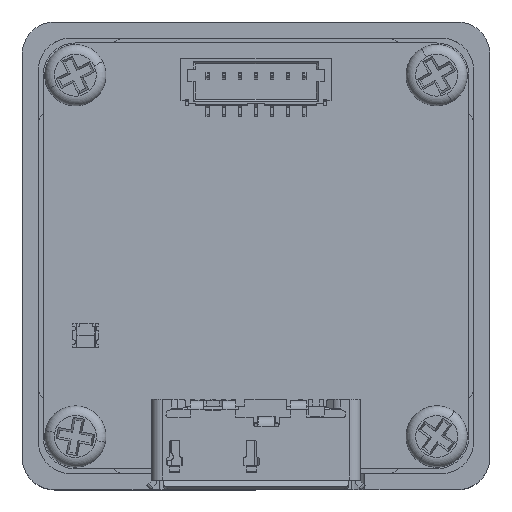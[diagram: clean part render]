
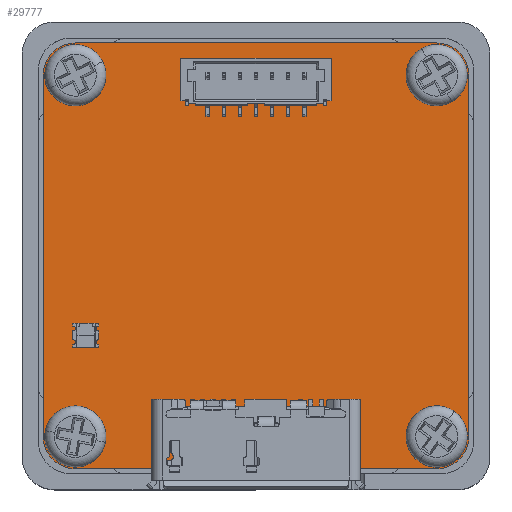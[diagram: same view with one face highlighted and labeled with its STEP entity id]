
A CAD part, top view. The second image highlights one B-rep face of the part: STEP entity #29777.
In plain terms, the highlighted planar face has unit normal (0, 0, 1).
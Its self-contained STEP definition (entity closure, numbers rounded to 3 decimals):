
#1104 = CARTESIAN_POINT ( 'NONE',  ( 2., 2., 1.201 ) ) ;
#1317 = FACE_BOUND ( 'NONE', #35950, .T. ) ;
#1433 = AXIS2_PLACEMENT_3D ( 'NONE', #22054, #46368, #70597 ) ;
#2433 = EDGE_CURVE ( 'NONE', #19336, #33959, #14262, .T. ) ;
#2584 = DIRECTION ( 'NONE',  ( -1., 0., 0. ) ) ;
#3640 = CARTESIAN_POINT ( 'NONE',  ( 24.4, 2., 1.201 ) ) ;
#4267 = VERTEX_POINT ( 'NONE', #25402 ) ;
#5616 = CARTESIAN_POINT ( 'NONE',  ( 25.5, 24.4, 1.201 ) ) ;
#6164 = ORIENTED_EDGE ( 'NONE', *, *, #60246, .F. ) ;
#7237 = DIRECTION ( 'NONE',  ( 0., 0., 1. ) ) ;
#7773 = CARTESIAN_POINT ( 'NONE',  ( 0.9, 24.4, 1.201 ) ) ;
#8455 = AXIS2_PLACEMENT_3D ( 'NONE', #3640, #53024, #65787 ) ;
#8881 = DIRECTION ( 'NONE',  ( 1., 0., 0. ) ) ;
#9021 = EDGE_CURVE ( 'NONE', #30019, #4267, #29493, .T. ) ;
#9370 = VECTOR ( 'NONE', #68484, 1000. ) ;
#9592 = CARTESIAN_POINT ( 'NONE',  ( 0.9, 2., 1.201 ) ) ;
#10093 = CARTESIAN_POINT ( 'NONE',  ( 3.1, 2., 1.201 ) ) ;
#10290 = VERTEX_POINT ( 'NONE', #7773 ) ;
#11524 = AXIS2_PLACEMENT_3D ( 'NONE', #48764, #7237, #19270 ) ;
#11554 = VERTEX_POINT ( 'NONE', #58157 ) ;
#11955 = CARTESIAN_POINT ( 'NONE',  ( 24.4, 24.4, 1.201 ) ) ;
#12565 = AXIS2_PLACEMENT_3D ( 'NONE', #46475, #64797, #31702 ) ;
#12816 = CARTESIAN_POINT ( 'NONE',  ( 23.3, 2., 1.201 ) ) ;
#13174 = DIRECTION ( 'NONE',  ( -1., 0., 0. ) ) ;
#13563 = DIRECTION ( 'NONE',  ( 0., 0., 1. ) ) ;
#14012 = ORIENTED_EDGE ( 'NONE', *, *, #71568, .F. ) ;
#14262 = CIRCLE ( 'NONE', #48579, 1.1 ) ;
#15139 = VECTOR ( 'NONE', #8881, 1000. ) ;
#15612 = CARTESIAN_POINT ( 'NONE',  ( 0., 2., 1.201 ) ) ;
#16088 = DIRECTION ( 'NONE',  ( 1., 0., 0. ) ) ;
#16107 = CIRCLE ( 'NONE', #8455, 2. ) ;
#16392 = CARTESIAN_POINT ( 'NONE',  ( 0., 24.4, 1.201 ) ) ;
#16412 = EDGE_LOOP ( 'NONE', ( #74653, #48766 ) ) ;
#16416 = DIRECTION ( 'NONE',  ( 0., 0., 1. ) ) ;
#16436 = CIRCLE ( 'NONE', #60955, 1.1 ) ;
#17610 = VERTEX_POINT ( 'NONE', #27703 ) ;
#18200 = CARTESIAN_POINT ( 'NONE',  ( 24.4, 0., 1.201 ) ) ;
#18439 = AXIS2_PLACEMENT_3D ( 'NONE', #51636, #37758, #43716 ) ;
#18669 = AXIS2_PLACEMENT_3D ( 'NONE', #46734, #58287, #16088 ) ;
#18701 = EDGE_CURVE ( 'NONE', #23930, #11554, #61919, .T. ) ;
#18862 = FACE_OUTER_BOUND ( 'NONE', #67828, .T. ) ;
#19270 = DIRECTION ( 'NONE',  ( 1., 0., 0. ) ) ;
#19336 = VERTEX_POINT ( 'NONE', #10093 ) ;
#19453 = DIRECTION ( 'NONE',  ( 0., 0., 1. ) ) ;
#19508 = DIRECTION ( 'NONE',  ( 0., 0., 1. ) ) ;
#20089 = LINE ( 'NONE', #45565, #15139 ) ;
#20492 = CARTESIAN_POINT ( 'NONE',  ( 2., 24.4, 1.201 ) ) ;
#21062 = LINE ( 'NONE', #37849, #9370 ) ;
#21764 = ORIENTED_EDGE ( 'NONE', *, *, #9021, .F. ) ;
#22054 = CARTESIAN_POINT ( 'NONE',  ( 24.4, 2., 1.201 ) ) ;
#23930 = VERTEX_POINT ( 'NONE', #38735 ) ;
#25402 = CARTESIAN_POINT ( 'NONE',  ( 25.5, 2., 1.201 ) ) ;
#25479 = DIRECTION ( 'NONE',  ( -1., 0., 0. ) ) ;
#25752 = EDGE_CURVE ( 'NONE', #17610, #33818, #38497, .T. ) ;
#27329 = DIRECTION ( 'NONE',  ( 0., 1., 0. ) ) ;
#27510 = ORIENTED_EDGE ( 'NONE', *, *, #76693, .T. ) ;
#27703 = CARTESIAN_POINT ( 'NONE',  ( 26.4, 2., 1.201 ) ) ;
#27981 = EDGE_CURVE ( 'NONE', #77637, #54269, #16436, .T. ) ;
#28140 = CIRCLE ( 'NONE', #59915, 1.1 ) ;
#28503 = EDGE_CURVE ( 'NONE', #75955, #10290, #35658, .T. ) ;
#29493 = CIRCLE ( 'NONE', #61308, 1.1 ) ;
#29777 = ADVANCED_FACE ( 'NONE', ( #42778, #1317, #61851, #48374, #18862 ), #43951, .T. ) ;
#30019 = VERTEX_POINT ( 'NONE', #12816 ) ;
#30269 = AXIS2_PLACEMENT_3D ( 'NONE', #53038, #16416, #71667 ) ;
#30423 = CARTESIAN_POINT ( 'NONE',  ( 26.4, 24.4, 1.201 ) ) ;
#31029 = ORIENTED_EDGE ( 'NONE', *, *, #48937, .T. ) ;
#31576 = CARTESIAN_POINT ( 'NONE',  ( 2., 0., 1.201 ) ) ;
#31702 = DIRECTION ( 'NONE',  ( 1., 0., 0. ) ) ;
#31825 = DIRECTION ( 'NONE',  ( -1., 0., 0. ) ) ;
#32347 = EDGE_LOOP ( 'NONE', ( #61047, #50073 ) ) ;
#32882 = CARTESIAN_POINT ( 'NONE',  ( 2., 2., 1.201 ) ) ;
#33818 = VERTEX_POINT ( 'NONE', #30423 ) ;
#33959 = VERTEX_POINT ( 'NONE', #9592 ) ;
#35046 = ORIENTED_EDGE ( 'NONE', *, *, #27981, .F. ) ;
#35658 = CIRCLE ( 'NONE', #12565, 1.1 ) ;
#35950 = EDGE_LOOP ( 'NONE', ( #6164, #21764 ) ) ;
#36490 = ORIENTED_EDGE ( 'NONE', *, *, #69970, .T. ) ;
#37052 = ORIENTED_EDGE ( 'NONE', *, *, #25752, .T. ) ;
#37758 = DIRECTION ( 'NONE',  ( 0., 0., 1. ) ) ;
#37763 = EDGE_LOOP ( 'NONE', ( #14012, #35046 ) ) ;
#37849 = CARTESIAN_POINT ( 'NONE',  ( 24.4, 26.4, 1.201 ) ) ;
#38091 = ORIENTED_EDGE ( 'NONE', *, *, #55059, .T. ) ;
#38497 = LINE ( 'NONE', #69891, #75704 ) ;
#38521 = CARTESIAN_POINT ( 'NONE',  ( 3.1, 24.4, 1.201 ) ) ;
#38668 = CARTESIAN_POINT ( 'NONE',  ( 24.4, 26.4, 1.201 ) ) ;
#38724 = EDGE_CURVE ( 'NONE', #10290, #75955, #48820, .T. ) ;
#38735 = CARTESIAN_POINT ( 'NONE',  ( 2., 26.4, 1.201 ) ) ;
#39580 = EDGE_CURVE ( 'NONE', #33818, #59189, #52772, .T. ) ;
#39888 = VERTEX_POINT ( 'NONE', #31576 ) ;
#40027 = VERTEX_POINT ( 'NONE', #15612 ) ;
#42625 = AXIS2_PLACEMENT_3D ( 'NONE', #20492, #44800, #45575 ) ;
#42778 = FACE_BOUND ( 'NONE', #32347, .T. ) ;
#43716 = DIRECTION ( 'NONE',  ( 1., 0., 0. ) ) ;
#43951 = PLANE ( 'NONE',  #11524 ) ;
#44105 = DIRECTION ( 'NONE',  ( 1., 0., 0. ) ) ;
#44800 = DIRECTION ( 'NONE',  ( 0., 0., 1. ) ) ;
#45565 = CARTESIAN_POINT ( 'NONE',  ( 2., 0., 1.201 ) ) ;
#45575 = DIRECTION ( 'NONE',  ( 1., 0., 0. ) ) ;
#46368 = DIRECTION ( 'NONE',  ( 0., 0., 1. ) ) ;
#46475 = CARTESIAN_POINT ( 'NONE',  ( 2., 24.4, 1.201 ) ) ;
#46734 = CARTESIAN_POINT ( 'NONE',  ( 2., 24.4, 1.201 ) ) ;
#48374 = FACE_BOUND ( 'NONE', #16412, .T. ) ;
#48579 = AXIS2_PLACEMENT_3D ( 'NONE', #32882, #57149, #2584 ) ;
#48764 = CARTESIAN_POINT ( 'NONE',  ( 2., 24.4, 1.201 ) ) ;
#48766 = ORIENTED_EDGE ( 'NONE', *, *, #38724, .F. ) ;
#48820 = CIRCLE ( 'NONE', #42625, 1.1 ) ;
#48937 = EDGE_CURVE ( 'NONE', #39888, #53045, #20089, .T. ) ;
#49035 = ORIENTED_EDGE ( 'NONE', *, *, #18701, .T. ) ;
#49268 = CARTESIAN_POINT ( 'NONE',  ( 24.4, 2., 1.201 ) ) ;
#49338 = CIRCLE ( 'NONE', #60830, 1.1 ) ;
#49353 = ORIENTED_EDGE ( 'NONE', *, *, #39580, .T. ) ;
#50073 = ORIENTED_EDGE ( 'NONE', *, *, #56577, .F. ) ;
#51636 = CARTESIAN_POINT ( 'NONE',  ( 24.4, 24.4, 1.201 ) ) ;
#52772 = CIRCLE ( 'NONE', #18439, 2. ) ;
#53024 = DIRECTION ( 'NONE',  ( 0., 0., 1. ) ) ;
#53038 = CARTESIAN_POINT ( 'NONE',  ( 2., 2., 1.201 ) ) ;
#53045 = VERTEX_POINT ( 'NONE', #18200 ) ;
#54269 = VERTEX_POINT ( 'NONE', #5616 ) ;
#55059 = EDGE_CURVE ( 'NONE', #11554, #40027, #58998, .T. ) ;
#56542 = CARTESIAN_POINT ( 'NONE',  ( 24.4, 24.4, 1.201 ) ) ;
#56577 = EDGE_CURVE ( 'NONE', #33959, #19336, #28140, .T. ) ;
#57149 = DIRECTION ( 'NONE',  ( 0., 0., 1. ) ) ;
#58157 = CARTESIAN_POINT ( 'NONE',  ( 0., 24.4, 1.201 ) ) ;
#58287 = DIRECTION ( 'NONE',  ( 0., 0., 1. ) ) ;
#58678 = CIRCLE ( 'NONE', #1433, 1.1 ) ;
#58998 = LINE ( 'NONE', #16392, #67172 ) ;
#59189 = VERTEX_POINT ( 'NONE', #38668 ) ;
#59915 = AXIS2_PLACEMENT_3D ( 'NONE', #1104, #19453, #31825 ) ;
#60246 = EDGE_CURVE ( 'NONE', #4267, #30019, #58678, .T. ) ;
#60830 = AXIS2_PLACEMENT_3D ( 'NONE', #11955, #19508, #25479 ) ;
#60955 = AXIS2_PLACEMENT_3D ( 'NONE', #56542, #13563, #13174 ) ;
#61047 = ORIENTED_EDGE ( 'NONE', *, *, #2433, .F. ) ;
#61308 = AXIS2_PLACEMENT_3D ( 'NONE', #49268, #74338, #44105 ) ;
#61851 = FACE_BOUND ( 'NONE', #37763, .T. ) ;
#61919 = CIRCLE ( 'NONE', #18669, 2. ) ;
#62756 = ORIENTED_EDGE ( 'NONE', *, *, #68892, .T. ) ;
#64797 = DIRECTION ( 'NONE',  ( 0., 0., 1. ) ) ;
#64999 = DIRECTION ( 'NONE',  ( 0., -1., 0. ) ) ;
#65787 = DIRECTION ( 'NONE',  ( 1., 0., 0. ) ) ;
#67172 = VECTOR ( 'NONE', #64999, 1000. ) ;
#67828 = EDGE_LOOP ( 'NONE', ( #49035, #38091, #36490, #31029, #62756, #37052, #49353, #27510 ) ) ;
#68484 = DIRECTION ( 'NONE',  ( -1., 0., 0. ) ) ;
#68892 = EDGE_CURVE ( 'NONE', #53045, #17610, #16107, .T. ) ;
#69891 = CARTESIAN_POINT ( 'NONE',  ( 26.4, 2., 1.201 ) ) ;
#69970 = EDGE_CURVE ( 'NONE', #40027, #39888, #74753, .T. ) ;
#70597 = DIRECTION ( 'NONE',  ( 1., 0., 0. ) ) ;
#71568 = EDGE_CURVE ( 'NONE', #54269, #77637, #49338, .T. ) ;
#71667 = DIRECTION ( 'NONE',  ( 1., 0., 0. ) ) ;
#73667 = CARTESIAN_POINT ( 'NONE',  ( 23.3, 24.4, 1.201 ) ) ;
#74338 = DIRECTION ( 'NONE',  ( 0., 0., 1. ) ) ;
#74653 = ORIENTED_EDGE ( 'NONE', *, *, #28503, .F. ) ;
#74753 = CIRCLE ( 'NONE', #30269, 2. ) ;
#75704 = VECTOR ( 'NONE', #27329, 1000. ) ;
#75955 = VERTEX_POINT ( 'NONE', #38521 ) ;
#76693 = EDGE_CURVE ( 'NONE', #59189, #23930, #21062, .T. ) ;
#77637 = VERTEX_POINT ( 'NONE', #73667 ) ;
